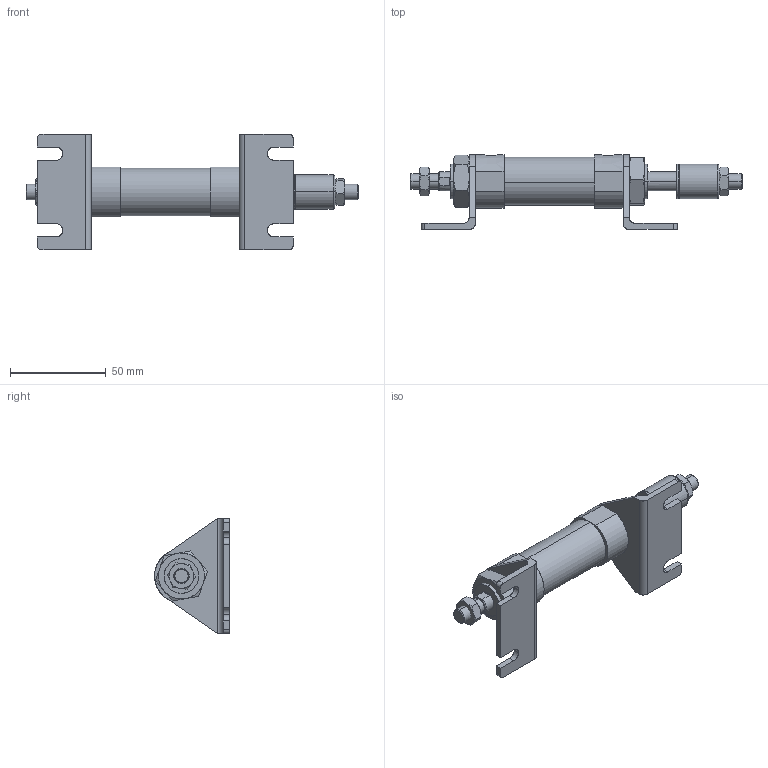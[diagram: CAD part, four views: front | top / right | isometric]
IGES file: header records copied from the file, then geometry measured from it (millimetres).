
Start section: SolidWorks IGES file using analytic representation for surfaces
Global section: file name: C:\Users\Toshiba\Desktop\JGA7-20-15-L.IGS; native system: SolidWorks 2014; preprocessor: SolidWorks 2014; author: Toshiba; date: 160420.091934; units: millimetre
Bounding box: 173 x 39 x 60 mm (x, y, z)
Surface area: 32636.2 mm2 (no closed solid volume)
Topology: 0 solids, 0 shells, 221 faces, 3688 edges, 3688 vertices
Faces by surface type: bspline 145, revolution 76
